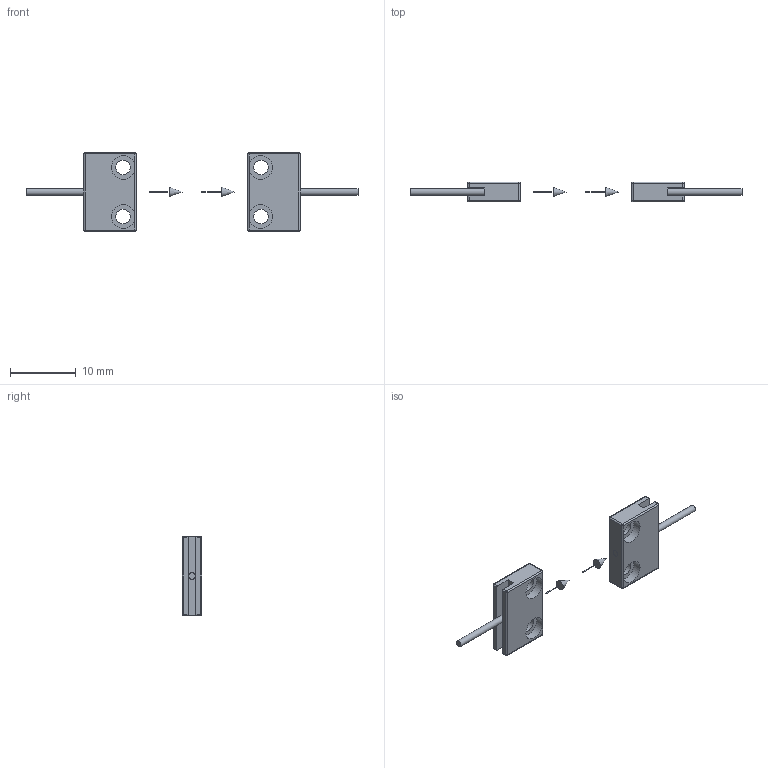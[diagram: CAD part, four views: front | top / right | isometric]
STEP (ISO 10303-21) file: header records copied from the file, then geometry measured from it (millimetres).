
FILE_DESCRIPTION( ( 'Unknown' ), '1' );
FILE_NAME( 'X:/SolidEdge/Models/Dokumentationen/Opto/Lichtleiter/Azbil/Fiber2014/Vereinfachte Modelle/Neutralformate/HPF-E1904.stp', 'Unknown', ( 'Unknown' ), ( 'Unknown' ), 'PSStep 15.0.49', 'Unknown', ' ' );
FILE_SCHEMA( ( 'AUTOMOTIVE_DESIGN { 1 0 10303 214 1 1 1 1 }' ) );
Length unit declared in the file: millimetre
Products named in the file (5): Assem1; HPF-E1904_S; HPF-E1904_E
Assembly tree (4 placements, depth 2):
  Assem1
    HPF-E1904_S
    HPF-E1904_S
    HPF-E1904_E
    HPF-E1904_E
Bounding box: 50.6 x 3 x 12 mm (x, y, z)
Volume: 443.8 mm3; surface area: 878.4 mm2
Topology: 4 solids, 4 shells, 92 faces, 208 edges, 112 vertices
Faces by surface type: cylinder 42, plane 32, sphere 16, cone 2
Full cylindrical faces by diameter (mm): 0.1 x2, 1 x4, 2.2 x4, 3.6 x4
Entity records: 3094 total; most frequent: DIRECTION 446, CARTESIAN_POINT 367, ORIENTED_EDGE 332, AXIS2_PLACEMENT_3D 183, EDGE_CURVE 166, EDGE_LOOP 120, FACE_OUTER_BOUND 106, VERTEX_POINT 104
